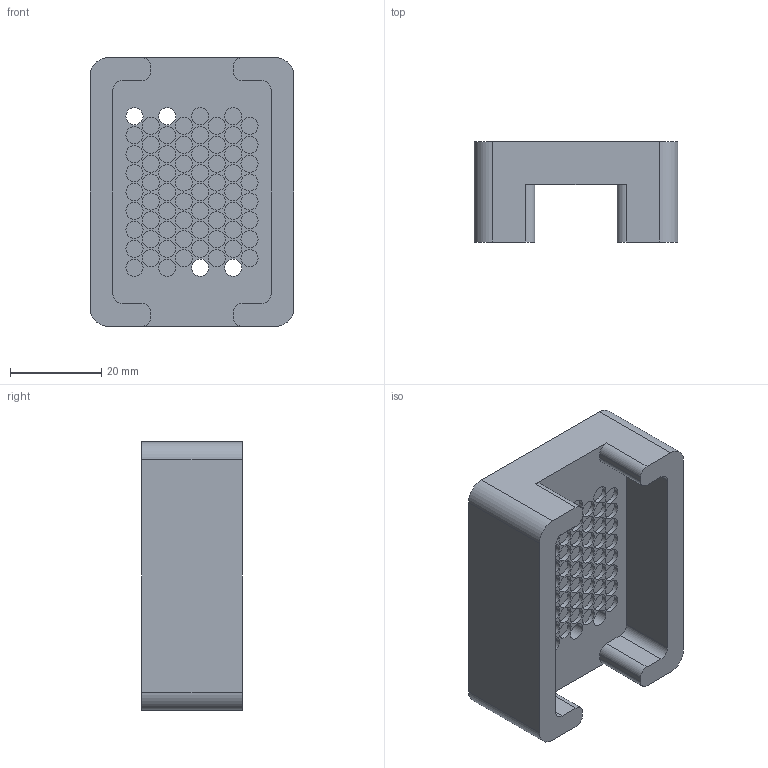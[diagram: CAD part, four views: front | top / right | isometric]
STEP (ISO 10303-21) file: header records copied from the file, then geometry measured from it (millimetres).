
FILE_DESCRIPTION (( 'STEP AP214' ), '1' );
FILE_NAME ('Example Press In Tool FM - AlN.STEP', '2025-01-31T21:51:57', ( '' ), ( '' ), 'SwSTEP 2.0', 'SolidWorks 2024', '' );
FILE_SCHEMA (( 'AUTOMOTIVE_DESIGN' ));
Length unit declared in the file: millimetre
Products named in the file (1): Example Press In Tool FM - AlN
Bounding box: 44.6 x 22 x 58.8 mm (x, y, z)
Volume: 32684.2 mm3; surface area: 12041.3 mm2
Topology: 1 solids, 1 shells, 234 faces, 504 edges, 336 vertices
Faces by surface type: cylinder 152, plane 82
Entity records: 9125 total; most frequent: DIRECTION 1278, CARTESIAN_POINT 1075, ORIENTED_EDGE 1008, AXIS2_PLACEMENT_3D 539, EDGE_CURVE 504, VERTEX_POINT 336, EDGE_LOOP 306, CIRCLE 304
